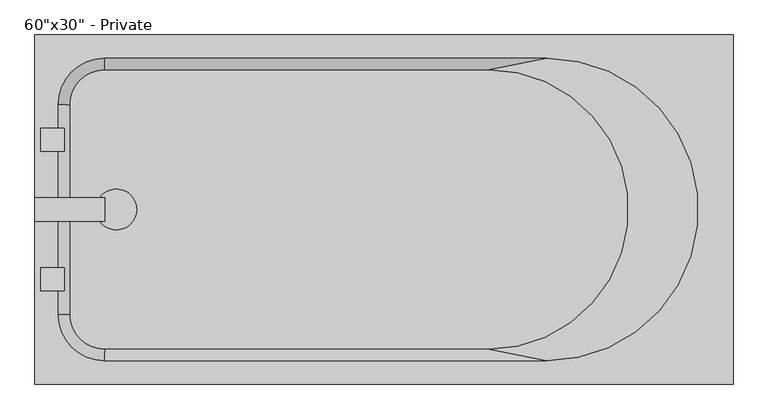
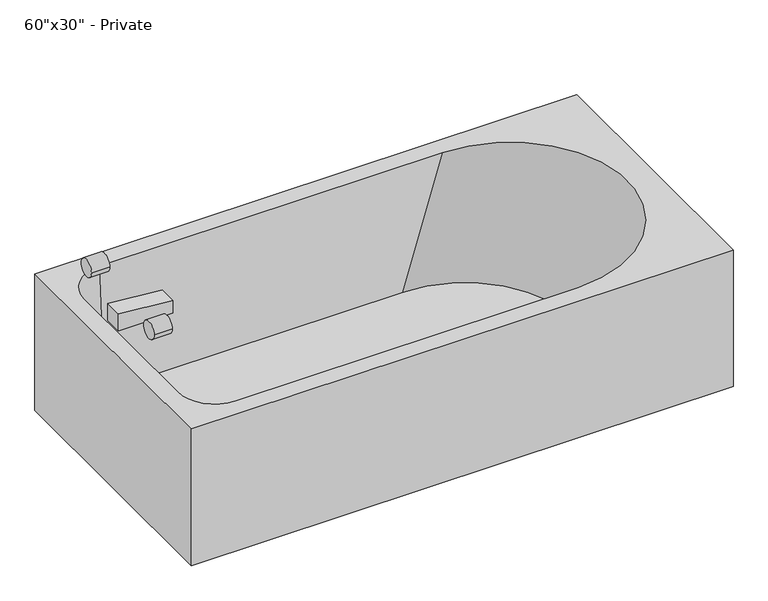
"""IFC4 building model written with IfcOpenShell, lengths in millimetres: flow terminal geometry."""

from ifc_helpers import new_model, si_unit, point, frame, frame_2d, origin, origin_with_axes, place, context, project, spatial, polyline, circle_curve, trimmed, segment, composite_curve, outline, extrude, source, transform, mapped, element, save
from ifc_brep_helpers import plane_surface, revolved_surface, spline_surface, advanced_brep


def flow_terminal_8c378771(model_context):
    return source(origin(), model_context, "Body", "SolidModel", [
        extrude(outline(composite_curve([segment(trimmed(circle_curve(frame_2d((177.8, -381.0)), 44.45), [point((133.35, -381.0))], [point((222.25, -381.0))], False, "CARTESIAN"), True, "CONTINUOUS"), segment(trimmed(circle_curve(frame_2d((177.8, -381.0)), 44.45), [point((222.25, -381.0))], [point((133.35, -381.0))], False, "CARTESIAN"), True, "CONTINUOUS")], self_intersect=False)), origin_with_axes(), (0.0, 0.0, 1.0), 50.8),
        advanced_brep(
        [(1524.0, 0.0, 406.4), (0.0, 0.0, 406.4), (0.0, -762.0, 406.4), (1524.0, -762.0, 406.4), (152.4, -711.2, 406.4), (50.8, -609.6, 406.4), (50.8, -152.4, 406.4), (152.4, -50.8, 406.4), (1117.6, -50.8, 406.4), (1117.6, -711.2, 406.4), (1524.0, 0.0, 0.0), (1524.0, -762.0, 0.0), (0.0, -762.0, 0.0), (0.0, 0.0, 0.0), (133.35, -381.0, 0.0), (222.25, -381.0, 0.0), (990.6, -685.8, 50.8), (990.6, -76.2, 50.8), (152.4, -76.2, 50.8), (76.2, -152.4, 50.8), (76.2, -609.6, 50.8), (152.4, -685.8, 50.8), (222.25, -381.0, 50.8), (133.35, -381.0, 50.8)],
        [
            (0, 1),
            (1, 2),
            (2, 3),
            (3, 0),
            (4, 5, circle_curve(frame((152.4, -609.6, 406.4), z_axis=(0.0, 0.0, -1.0), x_axis=(-1.0, 0.0, 0.0)), 101.6)),
            (5, 6),
            (6, 7, circle_curve(frame((152.4, -152.4, 406.4), z_axis=(0.0, 0.0, -1.0), x_axis=(0.0, 1.0, 0.0)), 101.6)),
            (7, 8),
            (8, 9, circle_curve(frame((1117.6, -381.0, 406.4), z_axis=(0.0, 0.0, -1.0), x_axis=(1.0, 0.0, 0.0)), 330.2)),
            (9, 4),
            (10, 11),
            (11, 12),
            (12, 13),
            (13, 10),
            (14, 15, circle_curve(frame((177.8, -381.0, 0.0), z_axis=(0.0, 0.0, 1.0), x_axis=(1.0, 0.0, 0.0)), 44.45)),
            (15, 14, circle_curve(frame((177.8, -381.0, 0.0), z_axis=(0.0, 0.0, 1.0), x_axis=(1.0, 0.0, 0.0)), 44.45)),
            (3, 11),
            (10, 0),
            (2, 12),
            (1, 13),
            (16, 17, circle_curve(frame((990.6, -381.0, 50.8), z_axis=(0.0, 0.0, 1.0), x_axis=(1.0, 0.0, 0.0)), 304.8)),
            (17, 18),
            (18, 19, circle_curve(frame((152.4, -152.4, 50.8), z_axis=(0.0, 0.0, 1.0), x_axis=(0.0, 1.0, 0.0)), 76.2)),
            (19, 20),
            (20, 21, circle_curve(frame((152.4, -609.6, 50.8), z_axis=(0.0, 0.0, 1.0), x_axis=(-1.0, 0.0, 0.0)), 76.2)),
            (21, 16),
            (22, 23, circle_curve(frame((177.8, -381.0, 50.8), z_axis=(0.0, 0.0, -1.0), x_axis=(1.0, 0.0, 0.0)), 44.45)),
            (23, 22, circle_curve(frame((177.8, -381.0, 50.8), z_axis=(0.0, 0.0, -1.0), x_axis=(1.0, 0.0, 0.0)), 44.45)),
            (16, 9),
            (8, 17),
            (7, 18),
            (6, 19),
            (5, 20),
            (4, 21),
            (23, 14),
            (15, 22),
        ],
        [
            plane_surface(frame((1524.0, 0.0, 406.4), z_axis=(0.0, 0.0, 1.0), x_axis=(0.0, -1.0, 0.0))),
            plane_surface(frame((1524.0, 0.0, 0.0), z_axis=(0.0, 0.0, -1.0), x_axis=(0.0, 1.0, 0.0))),
            plane_surface(frame((1524.0, 0.0, 406.4), z_axis=(1.0, 0.0, 0.0), x_axis=(0.0, 0.0, -1.0))),
            plane_surface(frame((1524.0, -762.0, 406.4), z_axis=(0.0, -1.0, 0.0), x_axis=(0.0, 0.0, -1.0))),
            plane_surface(frame((0.0, -762.0, 406.4), z_axis=(-1.0, 0.0, 0.0), x_axis=(0.0, 0.0, -1.0))),
            plane_surface(frame((0.0, 0.0, 406.4), z_axis=(0.0, 1.0, 0.0), x_axis=(0.0, 0.0, -1.0))),
            plane_surface(frame((406.4, -381.0, 50.8), z_axis=(0.0, 0.0, 1.0), x_axis=(0.0, 1.0, 0.0))),
            spline_surface(2, 1, [[(1117.6, -711.2, 406.4), (990.6, -685.8, 50.8)], [(1447.8, -711.2, 406.4), (1295.4, -685.8, 50.8)], [(1447.8, -381.0, 406.4), (1295.4, -381.0, 50.8)], [(1447.8, -50.799999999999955, 406.4), (1295.4, -76.20000000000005, 50.8)], [(1117.6, -50.8, 406.4), (990.6, -76.2, 50.8)]], [3, 2, 3], [2, 2], [0.0, 1.0, 2.0], [0.0, 1.0], weights=[[1.0, 1.0], [0.7071067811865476, 0.7071067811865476], [1.0, 1.0], [0.7071067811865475, 0.7071067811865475], [1.0, 1.0]]),
            plane_surface(frame((635.0, -50.8, 406.4), z_axis=(0.0, -0.9974586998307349, 0.07124704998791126), x_axis=(-1.0, 0.0, 0.0))),
            revolved_surface(polyline([(152.4, -50.8, 406.4000000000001), (152.4, -76.20000000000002, 50.799999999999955)]), (152.4, -152.4, -1016.0), (0.0, 0.0, 1.0)),
            plane_surface(frame((50.8, -381.0, 406.4), z_axis=(0.9974586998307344, 0.0, 0.07124704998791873), x_axis=(0.0, -1.0, 0.0))),
            revolved_surface(polyline([(50.8, -609.6, 406.4000000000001), (76.20000000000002, -609.6, 50.799999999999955)]), (152.4, -609.6, -1016.0), (0.0, 0.0, 1.0)),
            plane_surface(frame((635.0, -711.2, 406.4), z_axis=(0.0, 0.9974586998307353, 0.07124704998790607), x_axis=(1.0, 0.0, 0.0))),
            revolved_surface(polyline([(222.25, -381.0, 50.8), (222.25, -381.0, 0.0)]), (177.8, -381.0, 0.0), (0.0, 0.0, 1.0)),
        ],
        [
            (0, [[1, 2, 3, 4], [5, 6, 7, 8, 9, 10]]),
            (1, [[11, 12, 13, 14], [15, 16]]),
            (2, [[17, -11, 18, -4]]),
            (3, [[19, -12, -17, -3]]),
            (4, [[20, -13, -19, -2]]),
            (5, [[-18, -14, -20, -1]]),
            (6, [[21, 22, 23, 24, 25, 26], [27, 28]]),
            (7, [[29, -9, 30, -21]]),
            (8, [[-30, -8, 31, -22]]),
            (9, [[-31, -7, 32, -23]]),
            (10, [[-32, -6, 33, -24]]),
            (11, [[-33, -5, 34, -25]]),
            (12, [[-34, -10, -29, -26]]),
            (13, [[-28, 35, -16, 36]]),
            (13, [[-15, -35, -27, -36]]),
        ],
    ),
        extrude(outline(polyline([(482.6, 0.0), (482.6, 152.4), (520.7, 152.4), (533.4, 0.0), (482.6, 0.0)])), frame((0.0, -406.4, 0.0), z_axis=(0.0, 1.0, 0.0), x_axis=(0.0, 0.0, 1.0)), (0.0, 0.0, 1.0), 50.8),
        extrude(outline(composite_curve([segment(trimmed(circle_curve(frame_2d((-533.4, 558.8)), 25.4), [point((-508.0, 558.8))], [point((-558.8, 558.8))], False, "CARTESIAN"), True, "CONTINUOUS"), segment(trimmed(circle_curve(frame_2d((-533.4, 558.8)), 25.4), [point((-558.8, 558.8))], [point((-508.0, 558.8))], False, "CARTESIAN"), True, "CONTINUOUS")], self_intersect=False)), frame((12.7, 0.0, 0.0), z_axis=(1.0, 0.0, 0.0), x_axis=(0.0, 1.0, 0.0)), (0.0, 0.0, 1.0), 50.8),
        extrude(outline(composite_curve([segment(trimmed(circle_curve(frame_2d((-228.6, 558.8)), 25.4), [point((-203.2, 558.8))], [point((-254.0, 558.8))], False, "CARTESIAN"), True, "CONTINUOUS"), segment(trimmed(circle_curve(frame_2d((-228.6, 558.8)), 25.4), [point((-254.0, 558.8))], [point((-203.2, 558.8))], False, "CARTESIAN"), True, "CONTINUOUS")], self_intersect=False)), frame((12.7, 0.0, 0.0), z_axis=(1.0, 0.0, 0.0), x_axis=(0.0, 1.0, 0.0)), (0.0, 0.0, 1.0), 50.8),
    ])


if __name__ == "__main__":
    model = new_model("IFC4")
    model_context = context("Model", 3, world=origin())
    ifc_project = project(units=[si_unit("LENGTHUNIT", "METRE", prefix="MILLI")], contexts=[model_context])
    site = spatial("IfcSite", under=ifc_project)
    building = spatial("IfcBuilding", under=site)
    placement = place(None, origin())
    flow_terminal_shape = flow_terminal_8c378771(model_context)
    element("IfcFlowTerminal", 1, ObjectType="Bath_Tubrfa_5482 : 60\"x30\" - Private", at=placement, inside=building, context=model_context, shape_type="MappedRepresentation", body=[
        mapped(flow_terminal_shape, transform((0.0, 0.0, 0.0), x_axis=(1.0, 0.0, 0.0), y_axis=(0.0, 1.0, 0.0), z_axis=(0.0, 0.0, 1.0))),
    ])
    save(model, "model.ifc")
